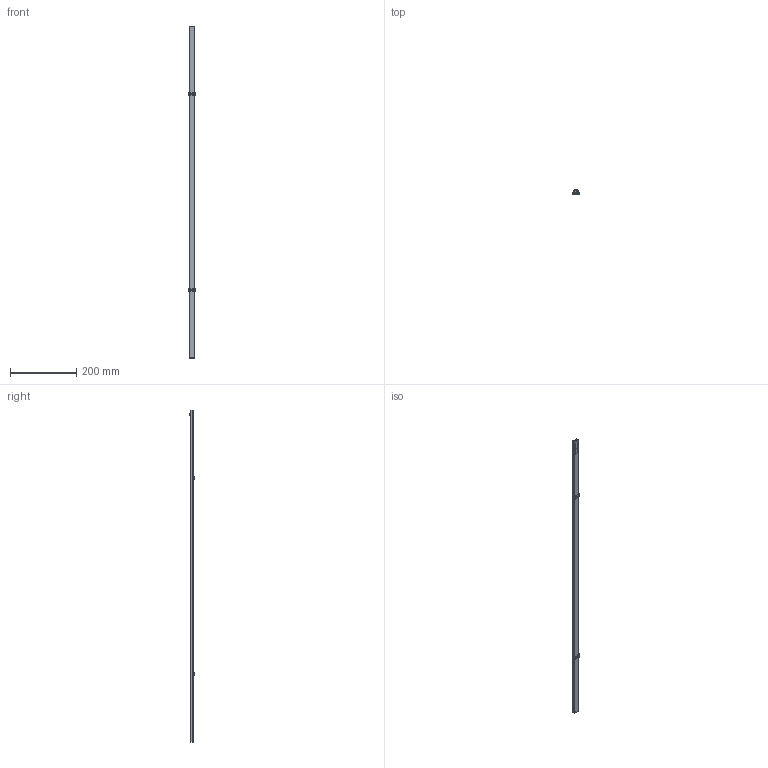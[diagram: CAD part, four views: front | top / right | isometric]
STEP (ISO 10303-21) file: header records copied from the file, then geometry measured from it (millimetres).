
FILE_DESCRIPTION (( 'STEP AP203' ), '1' );
FILE_NAME ('Surface Mounted Profile - With PIR Sensor.STEP', '2025-09-10T13:47:48', ( '' ), ( '' ), 'SwSTEP 2.0', 'SolidWorks 2020', '' );
FILE_SCHEMA (( 'CONFIG_CONTROL_DESIGN' ));
Length unit declared in the file: millimetre
Products named in the file (12): Surface Mounted - Fino Equivalent - Mounting Bracket - 18mm_For Render; Surface Mounted - Fino Equivalent - End Cap - 18mm_Standard Version - With Hole; Polar Connector - Large Version for Universal Sensor Housing; Surface Mounted - Fino Equivalent - 18mm_1 Meter Length; Diffuser - 18mm_967mm; Universal Sensor Housing - Upper Section - 18mm - V2_PIR; Profile Touch Dimmer_PIR - No Cable; Polar Connector - Upper; Surface Mounted - Fino Equivalent - End Cap - 18mm_Standard Version - Without Hole; Polar - Connector Pins; Surface Mounted Profile - With PIR Sensor; Universal Sensor With Housing - 18mm - Assembly_PIR - No Cable
Assembly tree (12 placements, depth 3):
  Surface Mounted Profile - With PIR Sensor
    Surface Mounted - Fino Equivalent - 18mm_1 Meter Length
    Diffuser - 18mm_967mm
    Universal Sensor With Housing - 18mm - Assembly_PIR - No Cable
      Polar Connector - Large Version for Universal Sensor Housing
      Polar - Connector Pins
      Profile Touch Dimmer_PIR - No Cable
      Universal Sensor Housing - Upper Section - 18mm - V2_PIR
      Polar Connector - Upper
    Surface Mounted - Fino Equivalent - End Cap - 18mm_Standard Version - With Hole
    Surface Mounted - Fino Equivalent - End Cap - 18mm_Standard Version - Without Hole
    Surface Mounted - Fino Equivalent - Mounting Bracket - 18mm_For Render  x2
Bounding box: 21.17 x 14.7 x 1002 mm (x, y, z)
Volume: 54295.9 mm3; surface area: 109364.1 mm2
Topology: 12 solids, 12 shells, 1186 faces, 2943 edges, 1727 vertices
Faces by surface type: cylinder 478, plane 421, torus 135, sphere 96, bspline 56
Entity records: 34491 total; most frequent: CARTESIAN_POINT 6620, DIRECTION 5894, ORIENTED_EDGE 5454, EDGE_CURVE 2727, AXIS2_PLACEMENT_3D 2193, VERTEX_POINT 1623, VECTOR 1508, LINE 1508
